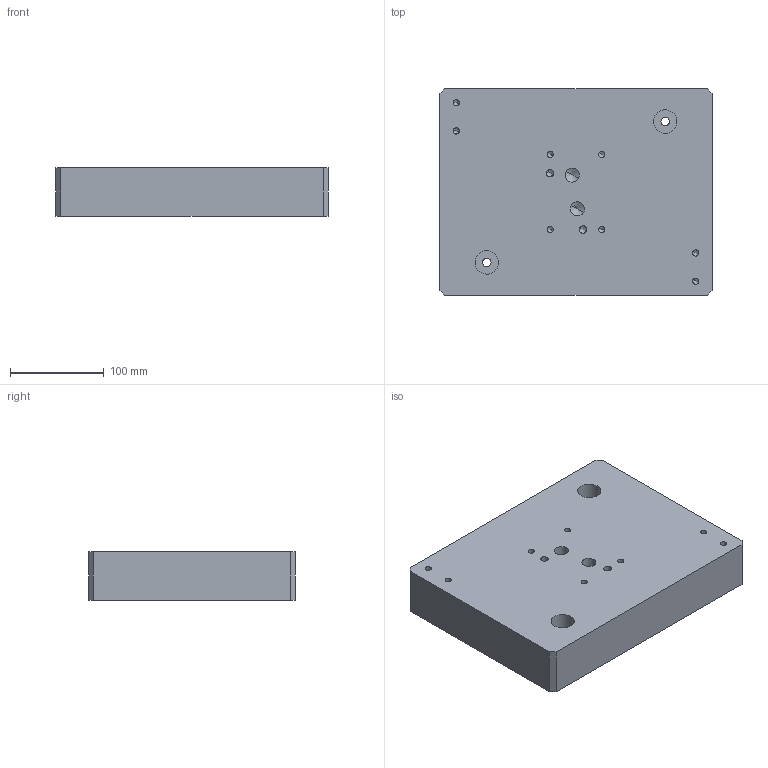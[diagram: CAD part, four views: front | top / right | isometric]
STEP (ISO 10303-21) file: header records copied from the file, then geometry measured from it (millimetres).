
FILE_DESCRIPTION(('CATIA V5 STEP Exchange','CAx-IF Rec.Pracs.--- Model Styling and Organization---1.5--- 2016-08-15','CAx-IF Rec.Pracs.---Supplemental Geometry---1.0---2011-11-01','CAx-IF Rec.Pracs.--- Composite Materials ---1.1---2010-07-15','CAx-IF Rec.Pracs.---External References---2.1---2005-01-19'),'2;1');
FILE_NAME('E:\WAT\Sprezarka\122_00_00_Tlocznik2\Tlocznik2_KPL\Tlocznik2_stp\122_03_53_Plyta.stp','2023-08-01T08:40:10+00:00',('none'),('none'),'CATIA Version 5-6 Release 2022 SP3','CATIA V5 STEP AP214 v2','none');
FILE_SCHEMA(('AUTOMOTIVE_DESIGN { 1 0 10303 214 1 1 1 1 }'));
Length unit declared in the file: millimetre
Products named in the file (1): 122_03_53_Plyta
Bounding box: 290 x 220 x 52 mm (x, y, z)
Volume: 3267236.3 mm3; surface area: 192247.2 mm2
Topology: 1 solids, 1 shells, 74 faces, 180 edges, 101 vertices
Faces by surface type: cylinder 36, cone 24, plane 14
Entity records: 1905 total; most frequent: ORIENTED_EDGE 312, CARTESIAN_POINT 300, DIRECTION 240, EDGE_CURVE 156, AXIS2_PLACEMENT_3D 115, VERTEX_POINT 100, EDGE_LOOP 94, VECTOR 84
